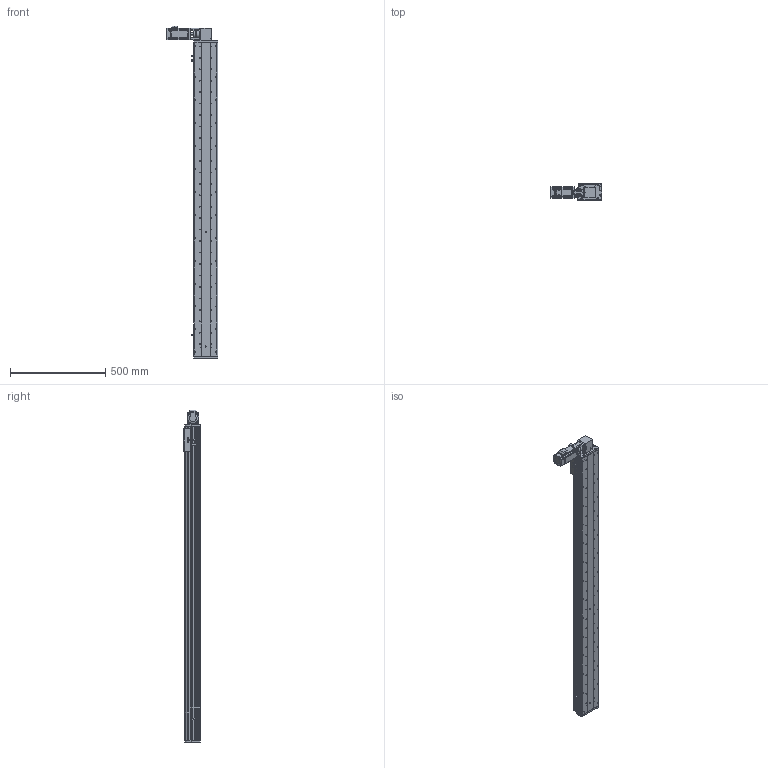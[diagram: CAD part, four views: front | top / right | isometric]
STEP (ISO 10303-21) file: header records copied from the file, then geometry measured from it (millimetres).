
FILE_DESCRIPTION (( 'STEP AP214' ), '1' );
FILE_NAME ('KSD125B-S1450-MRT-CM.STEP', '2017-08-07T07:46:15', ( '微软用户' ), ( '微软中国' ), 'SwSTEP 2.0', 'SolidWorks 2014', '' );
FILE_SCHEMA (( 'AUTOMOTIVE_DESIGN' ));
Length unit declared in the file: millimetre
Products named in the file (16): 125模组同步带-尾端板1; KSD125模组同步带-滑动座1; KSD125B-S1450-MRT-CM; KSD125模组1450行程同步带-防尘盖; 125模组1450行程同步带-底板; MHMD042G1CA_2_03; KSD125模组同步带-防撞垫2; CS-34X32-10X14; 100遵鎮湛假蚾啣1 ; 覜茼え68遵圉猾敕; U倰嫖萇假蚾璃; U倰嫖萇EEㄜSX672; KSD125模组同步带-防撞垫1; 100宽安装板同步带带电机座400W,86; 100宽马达安装板同步带右; 前端板-125宽模组同步带
Assembly tree (19 placements, depth 2):
  KSD125B-S1450-MRT-CM
    KSD125模组同步带-滑动座1
    125模组同步带-尾端板1
    前端板-125宽模组同步带
    100宽马达安装板同步带右
    100宽安装板同步带带电机座400W,86
    KSD125模组同步带-防撞垫1
    U倰嫖萇EEㄜSX672  x3
    U倰嫖萇假蚾璃  x3
    覜茼え68遵圉猾敕
    100遵鎮湛假蚾啣1 
    CS-34X32-10X14
    KSD125模组同步带-防撞垫2
    MHMD042G1CA_2_03
    125模组1450行程同步带-底板
    KSD125模组1450行程同步带-防尘盖
Bounding box: 269 x 86 x 1739 mm (x, y, z)
Volume: 5110204.5 mm3; surface area: 1666752.7 mm2
Topology: 18 solids, 21 shells, 1786 faces, 5134 edges, 3388 vertices
Faces by surface type: cylinder 969, plane 714, cone 81, bspline 22
Entity records: 63426 total; most frequent: CARTESIAN_POINT 12752, DIRECTION 9305, ORIENTED_EDGE 8788, EDGE_CURVE 4472, AXIS2_PLACEMENT_3D 3489, VERTEX_POINT 2980, VECTOR 2327, LINE 2327
